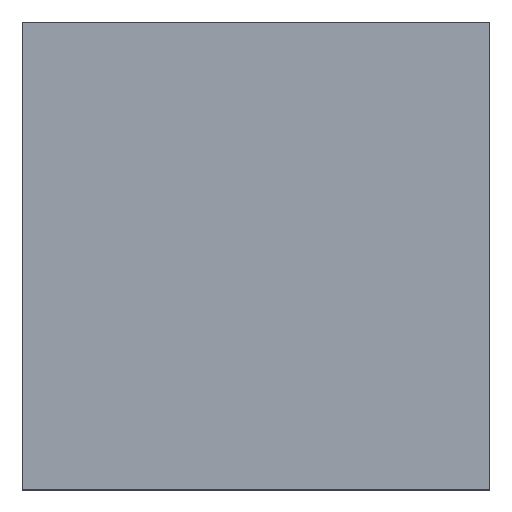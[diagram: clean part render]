
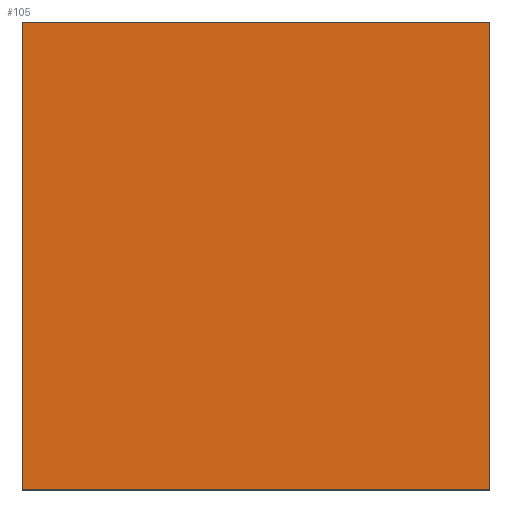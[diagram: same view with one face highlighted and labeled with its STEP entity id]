
A CAD part, top view. The second image highlights one B-rep face of the part: STEP entity #105.
In plain terms, the highlighted planar face has unit normal (0, 0, 1).
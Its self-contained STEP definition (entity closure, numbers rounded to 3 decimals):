
#19=FACE_OUTER_BOUND('',#25,.T.);
#25=EDGE_LOOP('',(#87,#88,#89,#90));
#29=LINE('',#161,#41);
#32=LINE('',#167,#44);
#35=LINE('',#173,#47);
#38=LINE('',#177,#50);
#41=VECTOR('',#133,10.);
#44=VECTOR('',#138,10.);
#47=VECTOR('',#143,10.);
#50=VECTOR('',#148,10.);
#53=VERTEX_POINT('',#158);
#54=VERTEX_POINT('',#160);
#56=VERTEX_POINT('',#166);
#58=VERTEX_POINT('',#172);
#61=EDGE_CURVE('',#54,#53,#29,.T.);
#64=EDGE_CURVE('',#56,#54,#32,.T.);
#67=EDGE_CURVE('',#58,#56,#35,.T.);
#70=EDGE_CURVE('',#53,#58,#38,.T.);
#87=ORIENTED_EDGE('',*,*,#70,.T.);
#88=ORIENTED_EDGE('',*,*,#67,.T.);
#89=ORIENTED_EDGE('',*,*,#64,.T.);
#90=ORIENTED_EDGE('',*,*,#61,.T.);
#99=PLANE('',#125);
#105=ADVANCED_FACE('',(#19),#99,.T.);
#125=AXIS2_PLACEMENT_3D('',#178,#149,#150);
#133=DIRECTION('',(0.,-1.,0.));
#138=DIRECTION('',(-1.,0.,0.));
#143=DIRECTION('',(0.,1.,0.));
#148=DIRECTION('',(1.,0.,0.));
#149=DIRECTION('center_axis',(0.,0.,1.));
#150=DIRECTION('ref_axis',(0.,-1.,0.));
#158=CARTESIAN_POINT('',(-375.809,-250.,-0.03));
#160=CARTESIAN_POINT('',(-375.809,250.,-0.03));
#161=CARTESIAN_POINT('',(-375.809,-250.,-0.03));
#166=CARTESIAN_POINT('',(124.191,250.,-0.03));
#167=CARTESIAN_POINT('',(-375.809,250.,-0.03));
#172=CARTESIAN_POINT('',(124.191,-250.,-0.03));
#173=CARTESIAN_POINT('',(124.191,250.,-0.03));
#177=CARTESIAN_POINT('',(124.191,-250.,-0.03));
#178=CARTESIAN_POINT('Origin',(-125.809,0.,-0.03));
